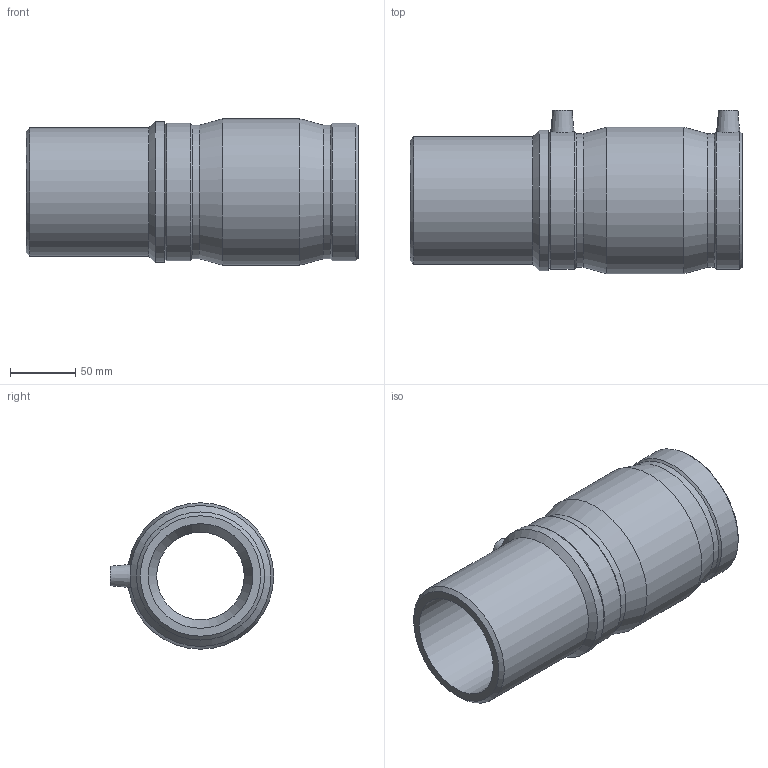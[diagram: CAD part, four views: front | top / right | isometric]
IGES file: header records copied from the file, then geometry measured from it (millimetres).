
Global section: file name: 495704090080.ipt; native system: Autodesk Inventor 2015; preprocessor: unknown; author: KIM; date: 20180502.161905; units: millimetre
Bounding box: 254 x 125 x 112 mm (x, y, z)
Volume: 925185.9 mm3; surface area: 164803.6 mm2
Topology: 1 solids, 2 shells, 45 faces, 97 edges, 63 vertices
Faces by surface type: plane 13, cone 12, cylinder 11, revolution 9
Full cylindrical faces by diameter (mm): 4 x2, 90 x2, 98 x1, 102.122 x2, 105.28 x2, 107.8 x1, 112 x1
